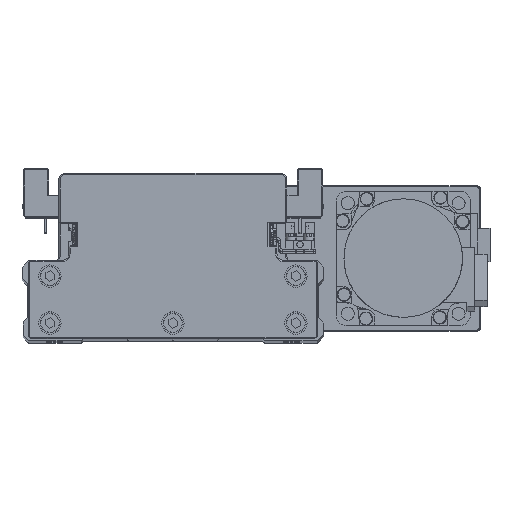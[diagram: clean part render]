
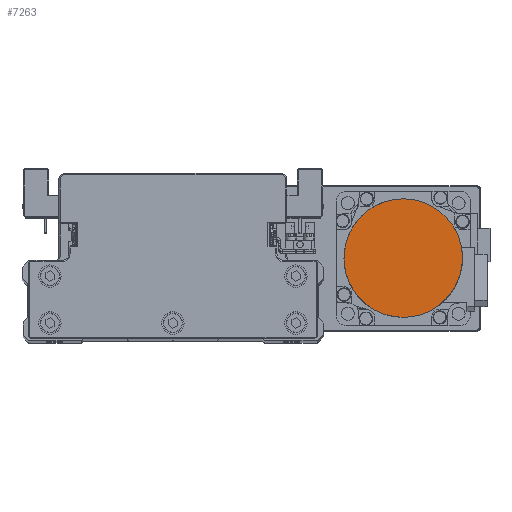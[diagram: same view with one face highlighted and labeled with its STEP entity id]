
A CAD part, top view. The second image highlights one B-rep face of the part: STEP entity #7263.
In plain terms, the highlighted planar face has unit normal (0, 0, 1) as drawn and (0, 0, -1) by its records, which use the part's own axes.
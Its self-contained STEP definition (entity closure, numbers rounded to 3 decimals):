
#68 = EDGE_CURVE ( 'NONE', #11498, #37503, #6627, .T. ) ;
#173 = CARTESIAN_POINT ( 'NONE',  ( 26.5, -1.734, -109.7 ) ) ;
#2489 = CARTESIAN_POINT ( 'NONE',  ( 26.5, 0., -109.7 ) ) ;
#2688 = CARTESIAN_POINT ( 'NONE',  ( 8.539, 25.147, -109.7 ) ) ;
#2853 = CARTESIAN_POINT ( 'NONE',  ( -25.652, -6.871, -109.7 ) ) ;
#2885 = CARTESIAN_POINT ( 'NONE',  ( -21.07, 16.165, -109.7 ) ) ;
#3051 = CARTESIAN_POINT ( 'NONE',  ( -1.734, -26.5, -109.7 ) ) ;
#3249 = CARTESIAN_POINT ( 'NONE',  ( 25.147, -8.539, -109.7 ) ) ;
#5748 = CARTESIAN_POINT ( 'NONE',  ( 16.165, 21.07, -109.7 ) ) ;
#5920 = CARTESIAN_POINT ( 'NONE',  ( -26.5, 0., -109.7 ) ) ;
#5947 = CARTESIAN_POINT ( 'NONE',  ( -16.165, 21.07, -109.7 ) ) ;
#6114 = CARTESIAN_POINT ( 'NONE',  ( -8.539, -25.147, -109.7 ) ) ;
#6312 = CARTESIAN_POINT ( 'NONE',  ( 21.07, -16.165, -109.7 ) ) ;
#6627 = B_SPLINE_CURVE_WITH_KNOTS ( 'NONE', 3,
 ( #5920, #18375, #30814, #2853, #15327, #27748, #40158, #12247, #24683, #37108, #9191, #21629, #34046, #6114, #18572, #31010, #3051, #15516, #27936, #20984, #12449, #24874, #37298, #9378, #21827, #34249, #6312, #18772, #31205, #3249, #15721, #28134, #173, #12641 ),
 .UNSPECIFIED., .F., .F.,
 ( 4, 2, 2, 2, 2, 2, 2, 2, 2, 2, 2, 2, 2, 2, 2, 2, 4 ),
 ( 0., 0.063, 0.125, 0.188, 0.25, 0.312, 0.375, 0.437, 0.5, 0.562, 0.625, 0.687, 0.75, 0.813, 0.875, 0.938, 1. ),
 .UNSPECIFIED. ) ;
#7263 = ADVANCED_FACE ( 'NONE', ( #14420 ), #26831, .F. ) ;
#8062 = ORIENTED_EDGE ( 'NONE', *, *, #68, .F. ) ;
#8819 = CARTESIAN_POINT ( 'NONE',  ( 21.07, 16.165, -109.7 ) ) ;
#9015 = CARTESIAN_POINT ( 'NONE',  ( -8.539, 25.147, -109.7 ) ) ;
#9191 = CARTESIAN_POINT ( 'NONE',  ( -16.165, -21.07, -109.7 ) ) ;
#9218 = CARTESIAN_POINT ( 'NONE',  ( -26.5, 0., -109.7 ) ) ;
#9378 = CARTESIAN_POINT ( 'NONE',  ( 16.165, -21.07, -109.7 ) ) ;
#10141 = B_SPLINE_CURVE_WITH_KNOTS ( 'NONE', 3,
 ( #2489, #14957, #27369, #39797, #11886, #24315, #36740, #8819, #21264, #33679, #5748, #18213, #30645, #2688, #15155, #27567, #39988, #12081, #24518, #36940, #9015, #21461, #33880, #5947, #18403, #30841, #2885, #15361, #27774, #40184, #12275, #24711, #37137, #9218 ),
 .UNSPECIFIED., .F., .F.,
 ( 4, 2, 2, 2, 2, 2, 2, 2, 2, 2, 2, 2, 2, 2, 2, 2, 4 ),
 ( 0., 0.062, 0.125, 0.187, 0.25, 0.312, 0.375, 0.437, 0.5, 0.562, 0.625, 0.687, 0.75, 0.813, 0.875, 0.938, 1. ),
 .UNSPECIFIED. ) ;
#11345 = DIRECTION ( 'NONE',  ( 0., 0., 1. ) ) ;
#11498 = VERTEX_POINT ( 'NONE', #13046 ) ;
#11886 = CARTESIAN_POINT ( 'NONE',  ( 25.147, 8.539, -109.7 ) ) ;
#12081 = CARTESIAN_POINT ( 'NONE',  ( -1.734, 26.5, -109.7 ) ) ;
#12247 = CARTESIAN_POINT ( 'NONE',  ( -21.07, -16.165, -109.7 ) ) ;
#12275 = CARTESIAN_POINT ( 'NONE',  ( -25.652, 6.871, -109.7 ) ) ;
#12449 = CARTESIAN_POINT ( 'NONE',  ( 8.539, -25.147, -109.7 ) ) ;
#12641 = CARTESIAN_POINT ( 'NONE',  ( 26.5, 0., -109.7 ) ) ;
#13046 = CARTESIAN_POINT ( 'NONE',  ( -26.5, 0., -109.7 ) ) ;
#14420 = FACE_OUTER_BOUND ( 'NONE', #25452, .T. ) ;
#14957 = CARTESIAN_POINT ( 'NONE',  ( 26.5, 1.734, -109.7 ) ) ;
#15155 = CARTESIAN_POINT ( 'NONE',  ( 6.871, 25.652, -109.7 ) ) ;
#15327 = CARTESIAN_POINT ( 'NONE',  ( -25.147, -8.539, -109.7 ) ) ;
#15361 = CARTESIAN_POINT ( 'NONE',  ( -22.998, 13.28, -109.7 ) ) ;
#15516 = CARTESIAN_POINT ( 'NONE',  ( 1.734, -26.5, -109.7 ) ) ;
#15721 = CARTESIAN_POINT ( 'NONE',  ( 25.652, -6.871, -109.7 ) ) ;
#18213 = CARTESIAN_POINT ( 'NONE',  ( 13.28, 22.998, -109.7 ) ) ;
#18375 = CARTESIAN_POINT ( 'NONE',  ( -26.5, -1.734, -109.7 ) ) ;
#18403 = CARTESIAN_POINT ( 'NONE',  ( -17.512, 19.965, -109.7 ) ) ;
#18572 = CARTESIAN_POINT ( 'NONE',  ( -6.871, -25.652, -109.7 ) ) ;
#18772 = CARTESIAN_POINT ( 'NONE',  ( 22.998, -13.28, -109.7 ) ) ;
#20984 = CARTESIAN_POINT ( 'NONE',  ( 6.871, -25.652, -109.7 ) ) ;
#21264 = CARTESIAN_POINT ( 'NONE',  ( 19.965, 17.512, -109.7 ) ) ;
#21461 = CARTESIAN_POINT ( 'NONE',  ( -11.744, 23.819, -109.7 ) ) ;
#21629 = CARTESIAN_POINT ( 'NONE',  ( -13.28, -22.998, -109.7 ) ) ;
#21827 = CARTESIAN_POINT ( 'NONE',  ( 17.512, -19.965, -109.7 ) ) ;
#23783 = DIRECTION ( 'NONE',  ( 1., 0., 0. ) ) ;
#24315 = CARTESIAN_POINT ( 'NONE',  ( 23.819, 11.744, -109.7 ) ) ;
#24518 = CARTESIAN_POINT ( 'NONE',  ( -3.469, 26.329, -109.7 ) ) ;
#24683 = CARTESIAN_POINT ( 'NONE',  ( -19.965, -17.512, -109.7 ) ) ;
#24711 = CARTESIAN_POINT ( 'NONE',  ( -26.329, 3.469, -109.7 ) ) ;
#24874 = CARTESIAN_POINT ( 'NONE',  ( 11.744, -23.819, -109.7 ) ) ;
#25452 = EDGE_LOOP ( 'NONE', ( #26771, #8062 ) ) ;
#25743 = AXIS2_PLACEMENT_3D ( 'NONE', #39258, #11345, #23783 ) ;
#26771 = ORIENTED_EDGE ( 'NONE', *, *, #37964, .F. ) ;
#26831 = PLANE ( 'NONE',  #25743 ) ;
#27369 = CARTESIAN_POINT ( 'NONE',  ( 26.329, 3.469, -109.7 ) ) ;
#27567 = CARTESIAN_POINT ( 'NONE',  ( 3.469, 26.329, -109.7 ) ) ;
#27748 = CARTESIAN_POINT ( 'NONE',  ( -23.819, -11.744, -109.7 ) ) ;
#27774 = CARTESIAN_POINT ( 'NONE',  ( -23.819, 11.744, -109.7 ) ) ;
#27936 = CARTESIAN_POINT ( 'NONE',  ( 3.469, -26.329, -109.7 ) ) ;
#28134 = CARTESIAN_POINT ( 'NONE',  ( 26.329, -3.469, -109.7 ) ) ;
#30645 = CARTESIAN_POINT ( 'NONE',  ( 11.744, 23.819, -109.7 ) ) ;
#30814 = CARTESIAN_POINT ( 'NONE',  ( -26.329, -3.469, -109.7 ) ) ;
#30841 = CARTESIAN_POINT ( 'NONE',  ( -19.965, 17.512, -109.7 ) ) ;
#31010 = CARTESIAN_POINT ( 'NONE',  ( -3.469, -26.329, -109.7 ) ) ;
#31205 = CARTESIAN_POINT ( 'NONE',  ( 23.819, -11.744, -109.7 ) ) ;
#33679 = CARTESIAN_POINT ( 'NONE',  ( 17.512, 19.965, -109.7 ) ) ;
#33880 = CARTESIAN_POINT ( 'NONE',  ( -13.28, 22.998, -109.7 ) ) ;
#34046 = CARTESIAN_POINT ( 'NONE',  ( -11.744, -23.819, -109.7 ) ) ;
#34249 = CARTESIAN_POINT ( 'NONE',  ( 19.965, -17.512, -109.7 ) ) ;
#36590 = CARTESIAN_POINT ( 'NONE',  ( 26.5, 0., -109.7 ) ) ;
#36740 = CARTESIAN_POINT ( 'NONE',  ( 22.998, 13.28, -109.7 ) ) ;
#36940 = CARTESIAN_POINT ( 'NONE',  ( -6.871, 25.652, -109.7 ) ) ;
#37108 = CARTESIAN_POINT ( 'NONE',  ( -17.512, -19.965, -109.7 ) ) ;
#37137 = CARTESIAN_POINT ( 'NONE',  ( -26.5, 1.734, -109.7 ) ) ;
#37298 = CARTESIAN_POINT ( 'NONE',  ( 13.28, -22.998, -109.7 ) ) ;
#37503 = VERTEX_POINT ( 'NONE', #36590 ) ;
#37964 = EDGE_CURVE ( 'NONE', #37503, #11498, #10141, .T. ) ;
#39258 = CARTESIAN_POINT ( 'NONE',  ( 0., 0., -109.7 ) ) ;
#39797 = CARTESIAN_POINT ( 'NONE',  ( 25.652, 6.871, -109.7 ) ) ;
#39988 = CARTESIAN_POINT ( 'NONE',  ( 1.734, 26.5, -109.7 ) ) ;
#40158 = CARTESIAN_POINT ( 'NONE',  ( -22.998, -13.28, -109.7 ) ) ;
#40184 = CARTESIAN_POINT ( 'NONE',  ( -25.147, 8.539, -109.7 ) ) ;
